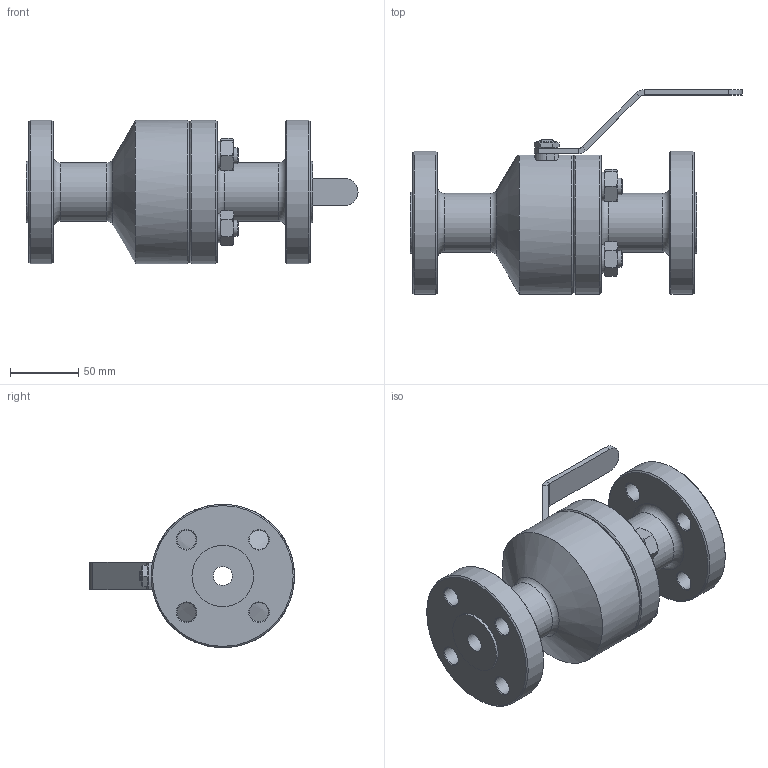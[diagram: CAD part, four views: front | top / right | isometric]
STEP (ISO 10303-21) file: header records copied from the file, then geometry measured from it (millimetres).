
FILE_DESCRIPTION((''),'2;1');
FILE_NAME('C:\Users\Bartek\Desktop\Nowy folder (2)\Nowy folder (22)\WK5b DN15 PN100_Substitute_1.stp','2024-09-16T13:41:54',('Bartek'),(''),'Autodesk Inventor 2012','Autodesk Inventor 2012','');
FILE_SCHEMA(('AUTOMOTIVE_DESIGN { 1 0 10303 214 1 1 1 1 }'));
Length unit declared in the file: millimetre
Products named in the file (1): WK5b DN15 PN100_Substitute_1
Bounding box: 243 x 150 x 105 mm (x, y, z)
Volume: 1025470 mm3; surface area: 129125.3 mm2
Topology: 1 solids, 1 shells, 219 faces, 499 edges, 303 vertices
Faces by surface type: plane 87, cone 84, cylinder 44, torus 4
Full cylindrical faces by diameter (mm): 12 x4, 14 x9, 21 x4, 43 x2, 45 x3, 105 x2
Entity records: 5828 total; most frequent: CARTESIAN_POINT 1215, DIRECTION 918, ORIENTED_EDGE 862, EDGE_CURVE 431, AXIS2_PLACEMENT_3D 398, EDGE_LOOP 313, VERTEX_POINT 290, FACE_OUTER_BOUND 219
